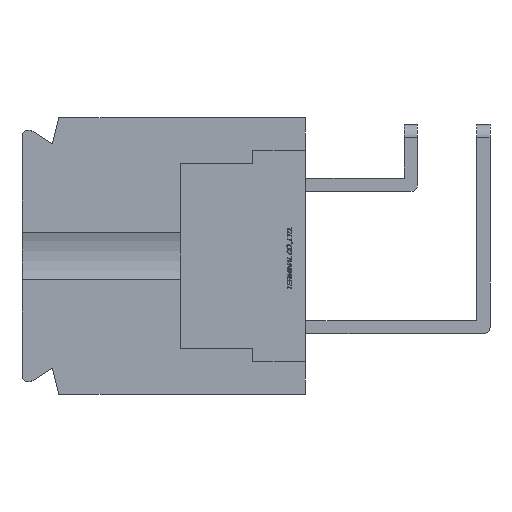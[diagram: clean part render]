
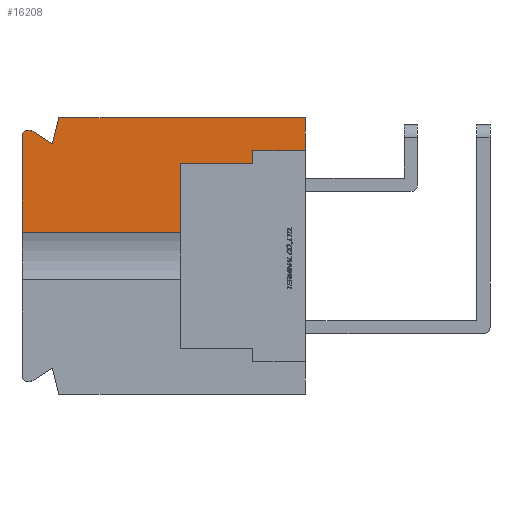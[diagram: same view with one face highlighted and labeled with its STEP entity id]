
A CAD part, left-side view. The second image highlights one B-rep face of the part: STEP entity #16208.
In plain terms, the highlighted planar face has unit normal (-1, 0, 0).
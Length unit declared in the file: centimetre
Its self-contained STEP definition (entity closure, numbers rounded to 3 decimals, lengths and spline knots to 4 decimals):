
#515=CIRCLE('',#27473,0.05);
#911=VECTOR('',#18042,1.);
#912=VECTOR('',#18043,1.);
#913=VECTOR('',#18044,1.);
#914=VECTOR('',#18045,1.);
#915=VECTOR('',#18046,1.);
#916=VECTOR('',#18047,1.);
#917=VECTOR('',#18048,1.);
#918=VECTOR('',#18049,1.);
#919=VECTOR('',#18052,1.);
#920=VECTOR('',#18053,1.);
#2868=LINE('',#21585,#911);
#2869=LINE('',#21588,#912);
#2870=LINE('',#21590,#913);
#2871=LINE('',#21592,#914);
#2872=LINE('',#21594,#915);
#2873=LINE('',#21596,#916);
#2874=LINE('',#21598,#917);
#2875=LINE('',#21600,#918);
#2876=LINE('',#21604,#919);
#2877=LINE('',#21606,#920);
#4838=VERTEX_POINT('',#21586);
#4839=VERTEX_POINT('',#21587);
#4840=VERTEX_POINT('',#21589);
#4841=VERTEX_POINT('',#21591);
#4842=VERTEX_POINT('',#21593);
#4843=VERTEX_POINT('',#21595);
#4844=VERTEX_POINT('',#21597);
#4845=VERTEX_POINT('',#21599);
#4846=VERTEX_POINT('',#21601);
#4847=VERTEX_POINT('',#21603);
#4848=VERTEX_POINT('',#21605);
#6635=EDGE_CURVE('',#4838,#4839,#2868,.T.);
#6636=EDGE_CURVE('',#4840,#4838,#2869,.T.);
#6637=EDGE_CURVE('',#4841,#4840,#2870,.T.);
#6638=EDGE_CURVE('',#4842,#4841,#2871,.T.);
#6639=EDGE_CURVE('',#4843,#4842,#2872,.T.);
#6640=EDGE_CURVE('',#4844,#4843,#2873,.T.);
#6641=EDGE_CURVE('',#4845,#4844,#2874,.T.);
#6642=EDGE_CURVE('',#4846,#4845,#2875,.T.);
#6643=EDGE_CURVE('',#4847,#4846,#515,.T.);
#6644=EDGE_CURVE('',#4848,#4847,#2876,.T.);
#6645=EDGE_CURVE('',#4848,#4839,#2877,.T.);
#9265=ORIENTED_EDGE('',*,*,#6635,.F.);
#9266=ORIENTED_EDGE('',*,*,#6636,.F.);
#9267=ORIENTED_EDGE('',*,*,#6637,.F.);
#9268=ORIENTED_EDGE('',*,*,#6638,.F.);
#9269=ORIENTED_EDGE('',*,*,#6639,.F.);
#9270=ORIENTED_EDGE('',*,*,#6640,.F.);
#9271=ORIENTED_EDGE('',*,*,#6641,.F.);
#9272=ORIENTED_EDGE('',*,*,#6642,.F.);
#9273=ORIENTED_EDGE('',*,*,#6643,.F.);
#9274=ORIENTED_EDGE('',*,*,#6644,.F.);
#9275=ORIENTED_EDGE('',*,*,#6645,.T.);
#14142=EDGE_LOOP('',(#9265,#9266,#9267,#9268,#9269,#9270,#9271,#9272,#9273,
#9274,#9275));
#15180=FACE_BOUND('',#14142,.T.);
#16208=ADVANCED_FACE('',(#15180),#17140,.F.);
#17140=PLANE('',#27472);
#18041=DIRECTION('',(1.,0.,0.));
#18042=DIRECTION('',(0.,0.,-1.));
#18043=DIRECTION('',(0.,1.,0.));
#18044=DIRECTION('',(0.,0.,-1.));
#18045=DIRECTION('',(0.,1.,0.));
#18046=DIRECTION('',(0.,0.,-1.));
#18047=DIRECTION('',(0.,-1.,0.));
#18048=DIRECTION('',(0.,-0.243,0.97));
#18049=DIRECTION('',(0.,-0.844,-0.536));
#18050=DIRECTION('',(1.,0.,0.));
#18051=DIRECTION('',(0.,0.,-0.05));
#18052=DIRECTION('',(0.,0.,1.));
#18053=DIRECTION('',(0.,-1.,0.));
#21584=CARTESIAN_POINT('',(-1.1,1.082,0.));
#21585=CARTESIAN_POINT('',(-1.1,0.95,-0.7));
#21586=CARTESIAN_POINT('',(-1.1,0.95,0.7));
#21587=CARTESIAN_POINT('',(-1.1,0.95,0.1809));
#21588=CARTESIAN_POINT('',(-1.1,0.95,0.7));
#21589=CARTESIAN_POINT('',(-1.1,0.4,0.7));
#21590=CARTESIAN_POINT('',(-1.1,0.4,0.7));
#21591=CARTESIAN_POINT('',(-1.1,0.4,0.8));
#21592=CARTESIAN_POINT('',(-1.1,0.4,0.8));
#21593=CARTESIAN_POINT('',(-1.1,0.,0.8));
#21594=CARTESIAN_POINT('',(-1.1,0.,1.05));
#21595=CARTESIAN_POINT('',(-1.1,0.,1.05));
#21596=CARTESIAN_POINT('',(-1.1,1.87,1.05));
#21597=CARTESIAN_POINT('',(-1.1,1.87,1.05));
#21598=CARTESIAN_POINT('',(-1.1,1.92,0.85));
#21599=CARTESIAN_POINT('',(-1.1,1.92,0.85));
#21600=CARTESIAN_POINT('',(-1.1,2.0742,0.9478));
#21601=CARTESIAN_POINT('',(-1.1,2.0742,0.9478));
#21602=CARTESIAN_POINT('',(-1.1,2.1,0.905));
#21603=CARTESIAN_POINT('',(-1.1,2.15,0.905));
#21604=CARTESIAN_POINT('',(-1.1,2.15,-0.905));
#21605=CARTESIAN_POINT('',(-1.1,2.15,0.1809));
#21606=CARTESIAN_POINT('',(-1.1,1.55,0.1809));
#27472=AXIS2_PLACEMENT_3D('',#21584,#18041,$);
#27473=AXIS2_PLACEMENT_3D('',#21602,#18050,#18051);
